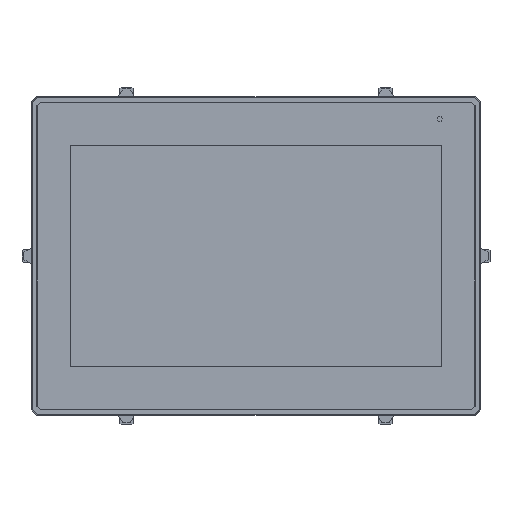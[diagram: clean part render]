
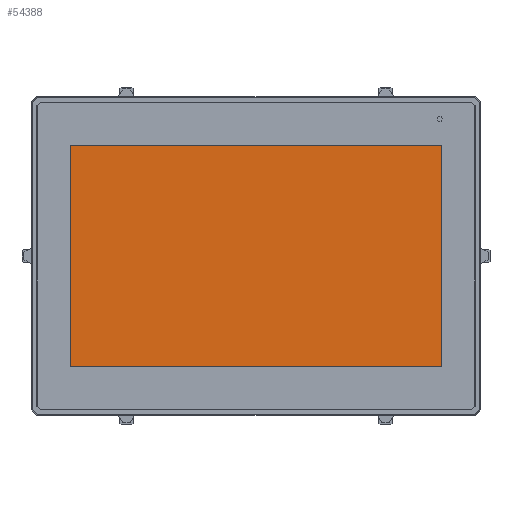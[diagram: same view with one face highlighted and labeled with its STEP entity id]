
A CAD part, top view. The second image highlights one B-rep face of the part: STEP entity #54388.
In plain terms, the highlighted planar face has unit normal (0, 0, 1).
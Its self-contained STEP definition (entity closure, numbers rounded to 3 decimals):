
#2258 = CARTESIAN_POINT ( 'NONE',  ( -111., 66.24, -0.4 ) ) ;
#3558 = EDGE_CURVE ( 'NONE', #80047, #64685, #56238, .T. ) ;
#3607 = VECTOR ( 'NONE', #64502, 1000. ) ;
#5013 = EDGE_LOOP ( 'NONE', ( #37949, #77868, #12798, #35762 ) ) ;
#6581 = VECTOR ( 'NONE', #21366, 1000. ) ;
#6885 = CARTESIAN_POINT ( 'NONE',  ( 111., 66.24, -0.4 ) ) ;
#8886 = DIRECTION ( 'NONE',  ( 1., 0., 0. ) ) ;
#10911 = VECTOR ( 'NONE', #57479, 1000. ) ;
#12798 = ORIENTED_EDGE ( 'NONE', *, *, #82005, .T. ) ;
#14716 = LINE ( 'NONE', #2258, #6581 ) ;
#18375 = CARTESIAN_POINT ( 'NONE',  ( -111., -66.24, -0.4 ) ) ;
#21366 = DIRECTION ( 'NONE',  ( -1., 0., 0. ) ) ;
#21479 = AXIS2_PLACEMENT_3D ( 'NONE', #34253, #40907, #8886 ) ;
#21499 = CARTESIAN_POINT ( 'NONE',  ( -111., -66.24, -0.4 ) ) ;
#21802 = VERTEX_POINT ( 'NONE', #29730 ) ;
#28006 = FACE_OUTER_BOUND ( 'NONE', #5013, .T. ) ;
#29730 = CARTESIAN_POINT ( 'NONE',  ( -111., 66.24, -0.4 ) ) ;
#30630 = LINE ( 'NONE', #56033, #30994 ) ;
#30994 = VECTOR ( 'NONE', #49794, 1000. ) ;
#34253 = CARTESIAN_POINT ( 'NONE',  ( -111., -66.24, -0.4 ) ) ;
#35762 = ORIENTED_EDGE ( 'NONE', *, *, #36020, .T. ) ;
#36020 = EDGE_CURVE ( 'NONE', #81013, #21802, #14716, .T. ) ;
#37949 = ORIENTED_EDGE ( 'NONE', *, *, #64126, .T. ) ;
#40907 = DIRECTION ( 'NONE',  ( 0., 0., 1. ) ) ;
#41471 = CARTESIAN_POINT ( 'NONE',  ( 111., -66.24, -0.4 ) ) ;
#49794 = DIRECTION ( 'NONE',  ( 0., -1., 0. ) ) ;
#54388 = ADVANCED_FACE ( 'NONE', ( #28006 ), #60456, .T. ) ;
#56033 = CARTESIAN_POINT ( 'NONE',  ( -111., -66.24, -0.4 ) ) ;
#56238 = LINE ( 'NONE', #18375, #10911 ) ;
#57479 = DIRECTION ( 'NONE',  ( 1., 0., 0. ) ) ;
#60456 = PLANE ( 'NONE',  #21479 ) ;
#64126 = EDGE_CURVE ( 'NONE', #21802, #80047, #30630, .T. ) ;
#64502 = DIRECTION ( 'NONE',  ( 0., 1., 0. ) ) ;
#64685 = VERTEX_POINT ( 'NONE', #71739 ) ;
#64905 = LINE ( 'NONE', #41471, #3607 ) ;
#71739 = CARTESIAN_POINT ( 'NONE',  ( 111., -66.24, -0.4 ) ) ;
#77868 = ORIENTED_EDGE ( 'NONE', *, *, #3558, .T. ) ;
#80047 = VERTEX_POINT ( 'NONE', #21499 ) ;
#81013 = VERTEX_POINT ( 'NONE', #6885 ) ;
#82005 = EDGE_CURVE ( 'NONE', #64685, #81013, #64905, .T. ) ;
